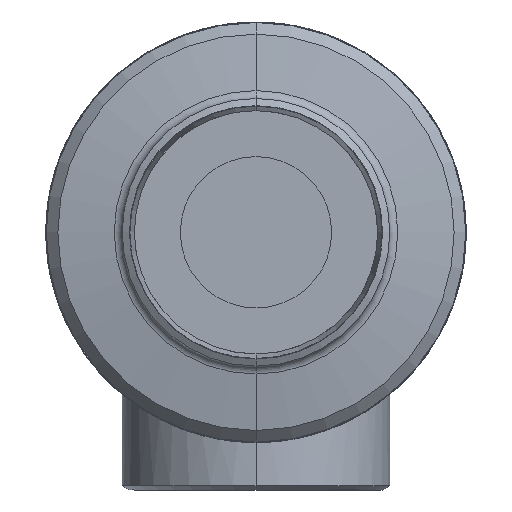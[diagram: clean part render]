
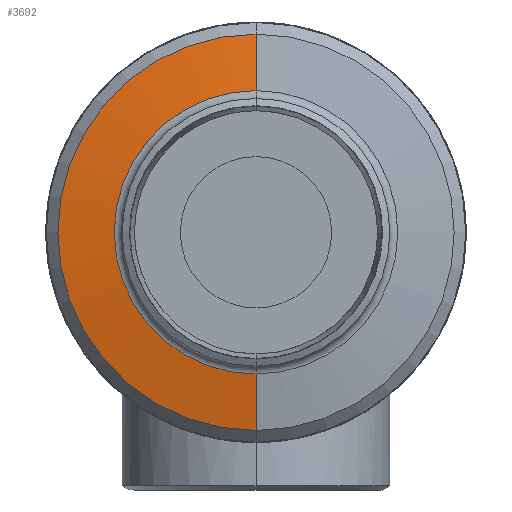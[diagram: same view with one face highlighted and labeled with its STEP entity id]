
A CAD part, front view. The second image highlights one B-rep face of the part: STEP entity #3692.
In plain terms, the highlighted conical face has half-angle 80 degrees and reference radius 109.5 mm.
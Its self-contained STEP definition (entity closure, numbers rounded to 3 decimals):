
#652 = CIRCLE ( 'NONE', #653, 103.43 ) ;
#653 = AXIS2_PLACEMENT_3D ( 'NONE', #654, #655, #656 ) ;
#654 = CARTESIAN_POINT ( 'NONE',  ( 0., -16.57, 0. ) ) ;
#655 = DIRECTION ( 'NONE',  ( 0., -1., 0. ) ) ;
#656 = DIRECTION ( 'NONE',  ( 0., 0., -1. ) ) ;
#2786 = ORIENTED_EDGE ( 'NONE', *, *, #11999, .F. ) ;
#3249 = VERTEX_POINT ( 'NONE', #3894 ) ;
#3448 = EDGE_LOOP ( 'NONE', ( #2786, #11470, #10974, #10456 ) ) ;
#3469 = VERTEX_POINT ( 'NONE', #4283 ) ;
#3540 = CARTESIAN_POINT ( 'NONE',  ( 0., -21.763, 73.982 ) ) ;
#3692 = ADVANCED_FACE ( 'NONE', ( #5201 ), #5202, .T. ) ;
#3894 = CARTESIAN_POINT ( 'NONE',  ( 0., -16.57, 103.43 ) ) ;
#4283 = CARTESIAN_POINT ( 'NONE',  ( 0., -16.57, -103.43 ) ) ;
#5201 = FACE_OUTER_BOUND ( 'NONE', #3448, .T. ) ;
#5202 = CONICAL_SURFACE ( 'NONE', #5203, 109.5, 1.396 ) ;
#5203 = AXIS2_PLACEMENT_3D ( 'NONE', #5204, #5205, #5206 ) ;
#5204 = CARTESIAN_POINT ( 'NONE',  ( 0., -15.5, 0. ) ) ;
#5205 = DIRECTION ( 'NONE',  ( 0., 1., 0. ) ) ;
#5206 = DIRECTION ( 'NONE',  ( 0., 0., 1. ) ) ;
#5448 = CIRCLE ( 'NONE', #5449, 73.982 ) ;
#5449 = AXIS2_PLACEMENT_3D ( 'NONE', #5450, #5451, #5452 ) ;
#5450 = CARTESIAN_POINT ( 'NONE',  ( 0., -21.763, 0. ) ) ;
#5451 = DIRECTION ( 'NONE',  ( 0., 1., 0. ) ) ;
#5452 = DIRECTION ( 'NONE',  ( 0., 0., -1. ) ) ;
#7547 = VERTEX_POINT ( 'NONE', #11040 ) ;
#7762 = VERTEX_POINT ( 'NONE', #3540 ) ;
#7966 = LINE ( 'NONE', #7967, #7968 ) ;
#7967 = CARTESIAN_POINT ( 'NONE',  ( 0., -15.5, 109.5 ) ) ;
#7968 = VECTOR ( 'NONE', #7969, 1000. ) ;
#7969 = DIRECTION ( 'NONE',  ( 0., 0.174, 0.985 ) ) ;
#10100 = EDGE_CURVE ( 'NONE', #3249, #3469, #652, .T. ) ;
#10290 = LINE ( 'NONE', #10291, #10292 ) ;
#10291 = CARTESIAN_POINT ( 'NONE',  ( 0., -15.5, -109.5 ) ) ;
#10292 = VECTOR ( 'NONE', #10293, 1000. ) ;
#10293 = DIRECTION ( 'NONE',  ( 0., 0.174, -0.985 ) ) ;
#10456 = ORIENTED_EDGE ( 'NONE', *, *, #10100, .T. ) ;
#10974 = ORIENTED_EDGE ( 'NONE', *, *, #11855, .T. ) ;
#11040 = CARTESIAN_POINT ( 'NONE',  ( 0., -21.763, -73.982 ) ) ;
#11470 = ORIENTED_EDGE ( 'NONE', *, *, #12210, .T. ) ;
#11855 = EDGE_CURVE ( 'NONE', #7762, #3249, #7966, .T. ) ;
#11999 = EDGE_CURVE ( 'NONE', #7547, #3469, #10290, .T. ) ;
#12210 = EDGE_CURVE ( 'NONE', #7547, #7762, #5448, .T. ) ;
